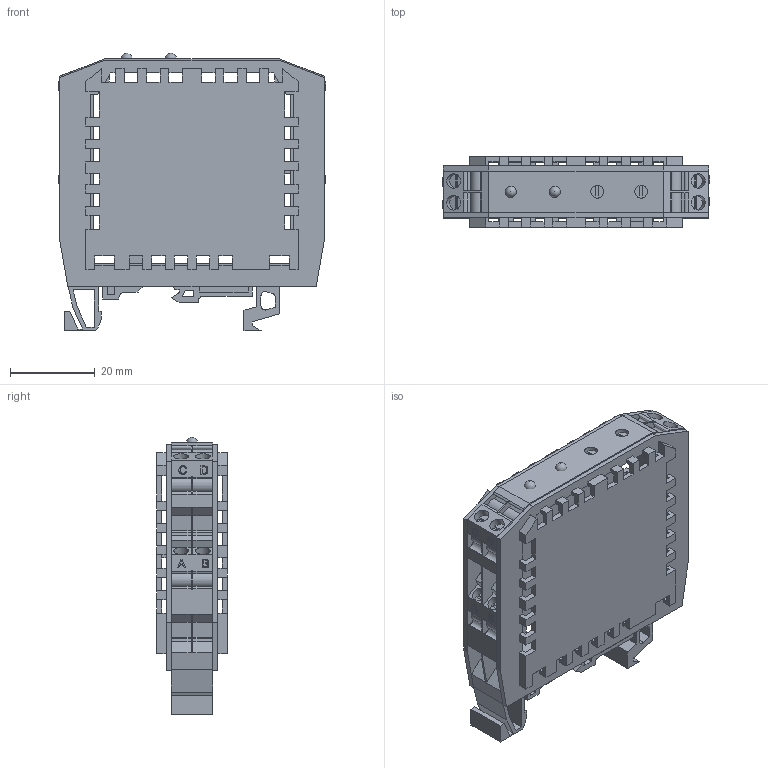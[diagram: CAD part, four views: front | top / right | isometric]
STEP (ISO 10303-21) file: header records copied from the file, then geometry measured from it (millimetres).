
FILE_DESCRIPTION(/* description */ (''),/* implementation_level */ '2;1');
FILE_NAME(/* name */ 'CAL25_.step',/* time_stamp */ '2023-09-22T10:23:55+02:00',/* author */ (''),/* organization */ (''),/* preprocessor_version */ 'ST-DEVELOPER v20',/* originating_system */ 'Autodesk Translation Framework v12.14.0.127',/* authorisation */ '');
FILE_SCHEMA (('AUTOMOTIVE_DESIGN { 1 0 10303 214 3 1 1 }'));
Products named in the file (13): CAL25; CAL25ig v3; CAL25ig v3 (1); cal25ig v3 (1)_1; cal25ig v3_1; cal25ig v3 (3); cal25ig v3 (2); cal25ig v3 (5); cal25ig v3 (4); cal25ig v3 (6); cal25ig v3 (7); cal25ig v4; cal25ig v4 (1)
Assembly tree (12 placements, depth 2):
  CAL25
    CAL25ig v3
    CAL25ig v3 (1)
    cal25ig v3 (1)_1
    cal25ig v3_1
    cal25ig v3 (3)
    cal25ig v3 (2)
    cal25ig v3 (5)
    cal25ig v3 (4)
    cal25ig v3 (6)
    cal25ig v3 (7)
    cal25ig v4
    cal25ig v4 (1)
Bounding box: 62.9 x 16.6 x 65.32 mm (x, y, z)
Volume: 18202.5 mm3; surface area: 24901.8 mm2
Topology: 15 solids, 15 shells, 1012 faces, 3120 edges, 2080 vertices
Faces by surface type: plane 598, cylinder 283, bspline 129, sphere 2
Full cylindrical faces by diameter (mm): 1.478 x24, 1.933 x48, 2 x8, 3 x10, 3.5 x18
Entity records: 50998 total; most frequent: CARTESIAN_POINT 24195, ORIENTED_EDGE 6232, DIRECTION 4424, EDGE_CURVE 3116, LINE 2210, VECTOR 2210, VERTEX_POINT 2080, AXIS2_PLACEMENT_3D 1107
